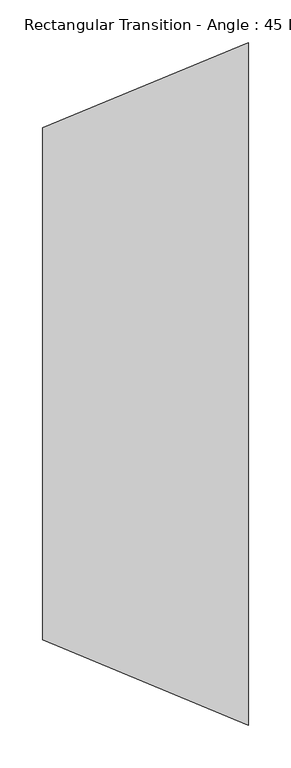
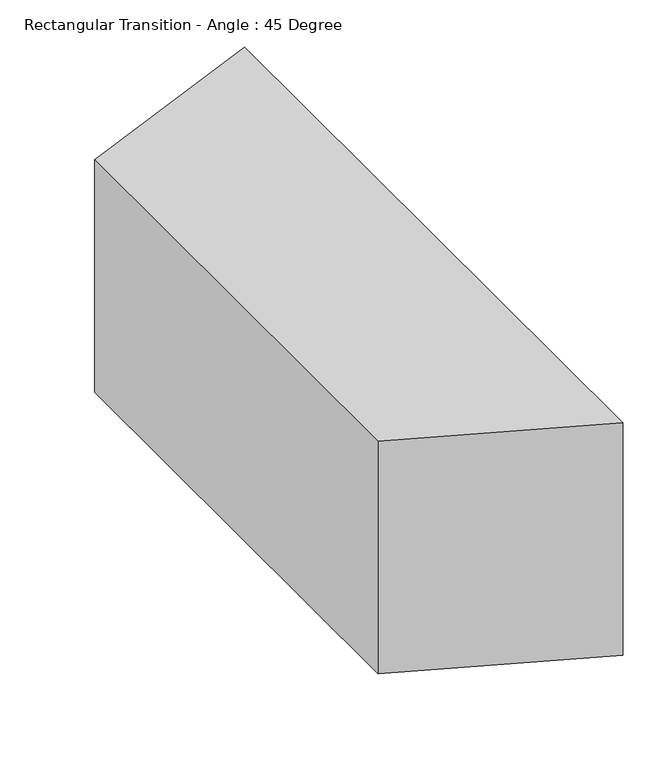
"""IFC4 building model written with IfcOpenShell, lengths in millimetres: duct fitting geometry, Rectangular Transition - Angle : 45 Degree."""

from ifc_helpers import new_model, si_unit, frame, origin, place, context, project, spatial, polyline, outline, extrude, source, transform, mapped, element, save


def rectangular_transition_angle_45_degree_cbafa6ef(model_context):
    return source(origin(), model_context, "Body", "SweptSolid", [
        extrude(outline(polyline([(0.0, -300.0), (0.0, 300.0), (241.4213562, 400.0), (241.4213562, -400.0), (0.0, -300.0)])), frame((0.0, 0.0, -150.0), z_axis=(0.0, 0.0, 1.0), x_axis=(1.0, 0.0, 0.0)), (0.0, 0.0, 1.0), 300.0),
    ])


if __name__ == "__main__":
    model = new_model("IFC4")
    model_context = context("Model", 3, world=origin())
    ifc_project = project(units=[si_unit("LENGTHUNIT", "METRE", prefix="MILLI")], contexts=[model_context])
    site = spatial("IfcSite", under=ifc_project)
    building = spatial("IfcBuilding", under=site)
    placement = place(None, origin())
    rectangular_transition_angle_45_degree_shape = rectangular_transition_angle_45_degree_cbafa6ef(model_context)
    element("IfcDuctFitting", 1, ObjectType="Rectangular Transition - Angle : 45 Degree", at=placement, inside=building, context=model_context, shape_type="MappedRepresentation", body=[
        mapped(rectangular_transition_angle_45_degree_shape, transform((0.0, 0.0, 0.0), x_axis=(1.0, 0.0, 0.0), y_axis=(0.0, 1.0, 0.0), z_axis=(0.0, 0.0, 1.0))),
    ])
    save(model, "model.ifc")
